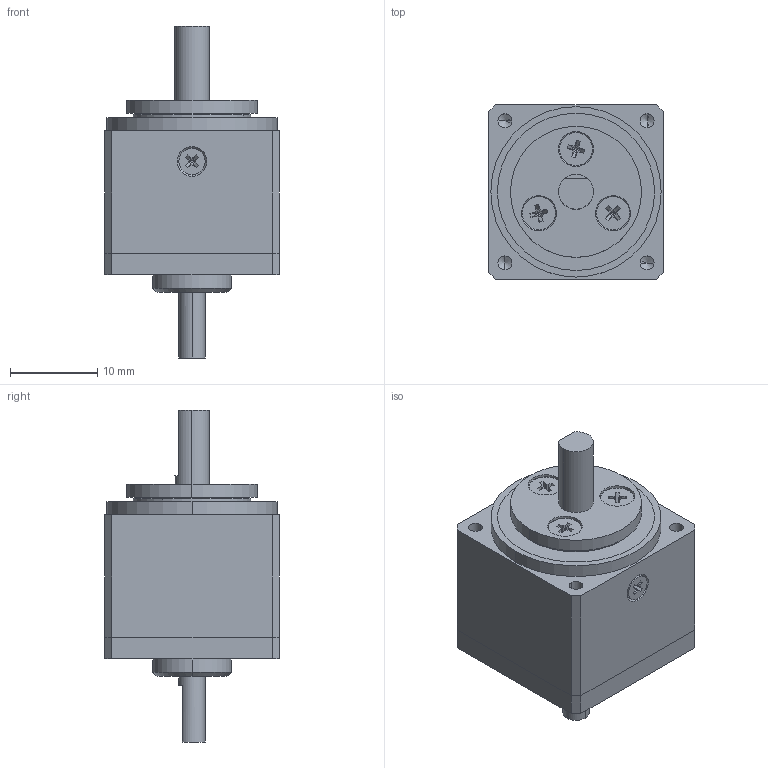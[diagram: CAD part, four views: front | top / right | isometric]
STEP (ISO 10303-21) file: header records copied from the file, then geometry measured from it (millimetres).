
FILE_DESCRIPTION (( 'STEP AP214' ), '1' );
FILE_NAME ('CSF-05-xxx-1U.STEP', '2022-04-27T10:36:52', ( 'PC' ), ( 'Microsoft' ), 'SwSTEP 2.0', 'SolidWorks 2016', '' );
FILE_SCHEMA (( 'AUTOMOTIVE_DESIGN' ));
Length unit declared in the file: millimetre
Products named in the file (16): CSF05-1U-05_蕼偞; CSF05-1U-疏楷汜ん_蕼偞; 旮僱⑩粣創  617罕3_蕼偞; 旮僱⑩粣創  618罕1.5_蕼偞; 13.08x9.8x2.08柔性轴承_預設; CSF05-1U-04_蕼偞; 十字槽沉头螺钉 M1.6×3_預設; CSF-05-1U-03_蕼偞; CSF-05蝠脫粣創_蕼偞; 外径14x0.8  O型圈_預設; CSF-05-交叉轴承外圈; CSF-05-交叉轴承内圈; CSF05-1U-01_蕼偞; CSF-05-xxx-1U; 十字槽沉头螺钉 M2×5_預設; CSF05-1U-02_蕼偞
Assembly tree (21 placements, depth 3):
  CSF-05-xxx-1U
    CSF05-1U-01_蕼偞
    CSF-05蝠脫粣創_蕼偞
      CSF-05-交叉轴承内圈
      CSF-05-交叉轴承外圈
      外径14x0.8  O型圈_預設
    CSF-05-1U-03_蕼偞
    十字槽沉头螺钉 M1.6×3_預設
    CSF05-1U-疏楷汜ん_蕼偞
      CSF05-1U-04_蕼偞
      13.08x9.8x2.08柔性轴承_預設
      旮僱⑩粣創  618罕1.5_蕼偞
      旮僱⑩粣創  617罕3_蕼偞
    CSF05-1U-05_蕼偞
    CSF05-1U-02_蕼偞
    十字槽沉头螺钉 M2×5_預設  x7
Bounding box: 20 x 20 x 38 mm (x, y, z)
Volume: 6055.5 mm3; surface area: 8914.1 mm2
Topology: 47 solids, 47 shells, 1029 faces, 2228 edges, 1264 vertices
Faces by surface type: plane 407, cylinder 318, bspline 172, cone 116, torus 16
Entity records: 24254 total; most frequent: CARTESIAN_POINT 7823, ORIENTED_EDGE 3088, DIRECTION 3076, EDGE_CURVE 1544, AXIS2_PLACEMENT_3D 1303, VERTEX_POINT 970, EDGE_LOOP 872, ADVANCED_FACE 741
